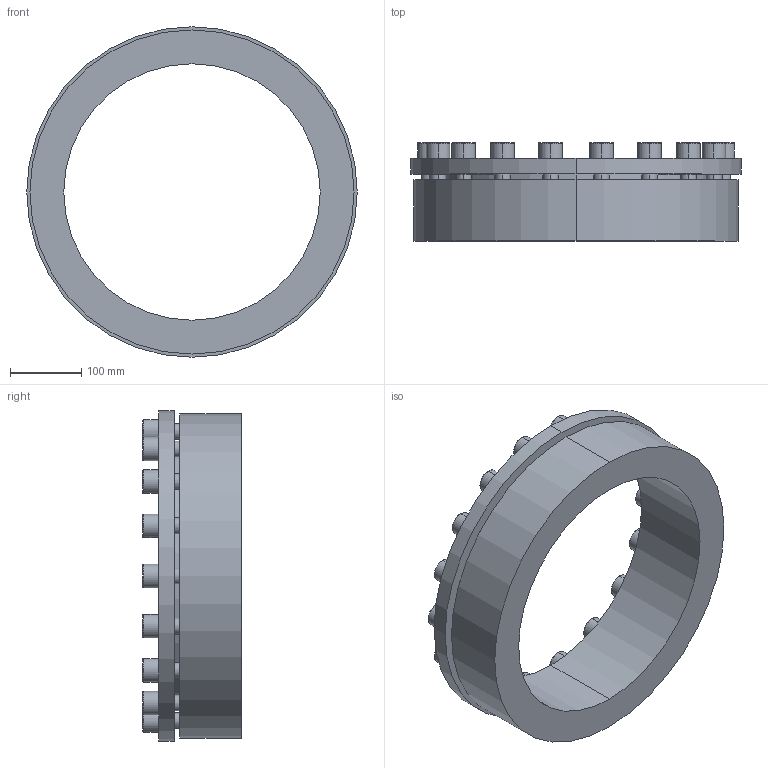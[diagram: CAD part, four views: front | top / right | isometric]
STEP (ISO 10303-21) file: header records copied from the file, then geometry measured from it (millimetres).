
FILE_DESCRIPTION (( 'STEP AP203' ), '1' );
FILE_NAME ('PL-H6 360-455.STEP', '2021-10-23T01:41:16', ( '' ), ( '' ), 'SwSTEP 2.0', 'SolidWorks 2018', '' );
FILE_SCHEMA (( 'CONFIG_CONTROL_DESIGN' ));
Length unit declared in the file: millimetre
Products named in the file (1): PL-H6 360-455
Bounding box: 464 x 138 x 464 mm (x, y, z)
Volume: 7142042.3 mm3; surface area: 578065.8 mm2
Topology: 1 solids, 1 shells, 264 faces, 636 edges, 412 vertices
Faces by surface type: plane 148, cylinder 80, torus 36
Entity records: 7857 total; most frequent: DIRECTION 1398, CARTESIAN_POINT 1313, ORIENTED_EDGE 1272, EDGE_CURVE 636, AXIS2_PLACEMENT_3D 497, VERTEX_POINT 412, VECTOR 404, LINE 404
